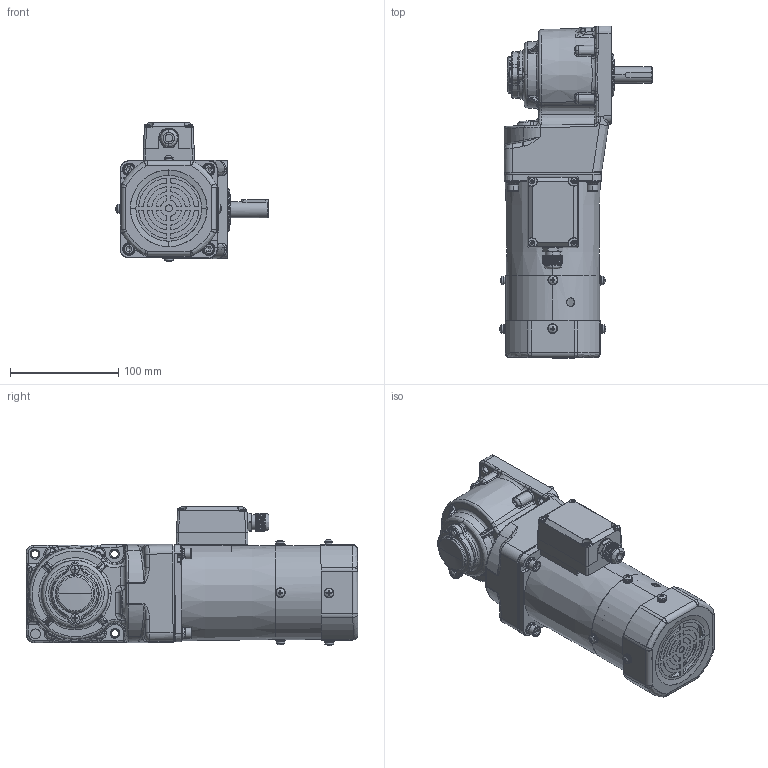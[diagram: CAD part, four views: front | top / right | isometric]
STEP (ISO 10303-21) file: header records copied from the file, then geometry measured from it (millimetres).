
FILE_DESCRIPTION (( 'STEP AP203' ), '1' );
FILE_NAME ('5RK60GU-CMFT(5GU3RT-180RT)ÐÂ.STEP', '2023-08-17T07:11:05', ( 'Windows User' ), ( 'P R C' ), 'SwSTEP 2.0', 'SolidWorks 2019', '' );
FILE_SCHEMA (( 'CONFIG_CONTROL_DESIGN' ));
Length unit declared in the file: millimetre
Products named in the file (10): cross recessed pan head screws gb_GB_CROSS_SCREWS_TYPE1 M4X6-6  H type-N^5RK60GU-CMFT(5GU3RT-180RT)ÐÂ(2)_5RK60GU-CMFT(5GU3RT-180RT)ÐÂ; hexagon socket head cap screws gb_GB_FASTENER_SCREWS_HSHCS M5X12-N^5RK60GU-CMFT(5GU3RT-180RT)ÐÂ(2)_5RK60GU-CMFT(5GU3RT-180RT)ÐÂ; 90RT____________^5RK60GU-CMFT(5GU3RT-180RT)ÐÂ(2)_5RK60GU-CMFT(5GU3RT-180RT)ÐÂ; 90____^5RK60GU-CMFT(5GU3RT-180RT)陔(2)_5RK60GU-CMFT(5GU3RT-180RT)陔; 5RK60GU-CMFT(5GU3RT-180RT)陔(2)^5RK60GU-CMFT(5GU3RT-180RT)陔; 90__________^5RK60GU-CMFT(5GU3RT-180RT)陔(2)_5RK60GU-CMFT(5GU3RT-180RT)陔; zd-5gu-50rc-504-001m#________ 2021-12-07 - ____^5RK60GU-CMFT(5GU3RT-180RT)ÐÂ(2)_5RK60GU-CMFT(5GU3RT-180RT)ÐÂ; 5RK60GU-CMFT(5GU3RT-180RT)陔; ZD-5GU50RC-505-003______^5RK60GU-CMFT(5GU3RT-180RT)ÐÂ(2)_5RK60GU-CMFT(5GU3RT-180RT)ÐÂ; 5RK60GU-CMFT(5GU3RT-180RT)^5RK60GU-CMFT(5GU3RT-180RT)ÐÂ(2)_5RK60GU-CMFT(5GU3RT-180RT)ÐÂ
Assembly tree (13 placements, depth 3):
  5RK60GU-CMFT(5GU3RT-180RT)陔
    5RK60GU-CMFT(5GU3RT-180RT)陔(2)^5RK60GU-CMFT(5GU3RT-180RT)陔
      zd-5gu-50rc-504-001m#________ 2021-12-07 - ____^5RK60GU-CMFT(5GU3RT-180RT)ÐÂ(2)_5RK60GU-CMFT(5GU3RT-180RT)ÐÂ
      90__________^5RK60GU-CMFT(5GU3RT-180RT)陔(2)_5RK60GU-CMFT(5GU3RT-180RT)陔
      90____^5RK60GU-CMFT(5GU3RT-180RT)陔(2)_5RK60GU-CMFT(5GU3RT-180RT)陔
      ZD-5GU50RC-505-003______^5RK60GU-CMFT(5GU3RT-180RT)ÐÂ(2)_5RK60GU-CMFT(5GU3RT-180RT)ÐÂ
      90RT____________^5RK60GU-CMFT(5GU3RT-180RT)ÐÂ(2)_5RK60GU-CMFT(5GU3RT-180RT)ÐÂ
      hexagon socket head cap screws gb_GB_FASTENER_SCREWS_HSHCS M5X12-N^5RK60GU-CMFT(5GU3RT-180RT)ÐÂ(2)_5RK60GU-CMFT(5GU3RT-180RT)ÐÂ  x4
      cross recessed pan head screws gb_GB_CROSS_SCREWS_TYPE1 M4X6-6  H type-N^5RK60GU-CMFT(5GU3RT-180RT)ÐÂ(2)_5RK60GU-CMFT(5GU3RT-180RT)ÐÂ  x2
      5RK60GU-CMFT(5GU3RT-180RT)^5RK60GU-CMFT(5GU3RT-180RT)ÐÂ(2)_5RK60GU-CMFT(5GU3RT-180RT)ÐÂ
Bounding box: 141.06 x 306.96 x 128.95 mm (x, y, z)
Volume: 923798.2 mm3; surface area: 266252.7 mm2
Topology: 52 solids, 63 shells, 3153 faces, 7877 edges, 4793 vertices
Faces by surface type: cylinder 899, plane 885, cone 701, bspline 566, torus 92, sphere 10
Entity records: 128391 total; most frequent: CARTESIAN_POINT 61520, ORIENTED_EDGE 15002, DIRECTION 12045, EDGE_CURVE 7503, AXIS2_PLACEMENT_3D 4844, VERTEX_POINT 4651, EDGE_LOOP 3238, FACE_OUTER_BOUND 3053
